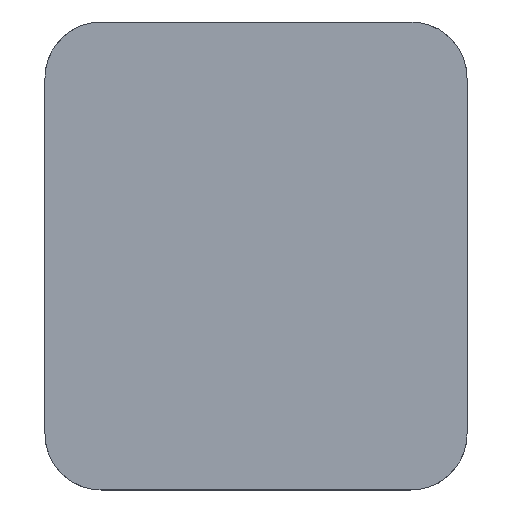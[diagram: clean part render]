
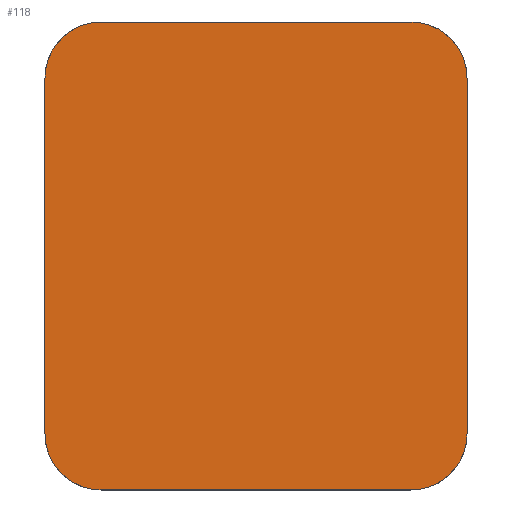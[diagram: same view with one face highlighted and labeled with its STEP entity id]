
A CAD part, top view. The second image highlights one B-rep face of the part: STEP entity #118.
In plain terms, the highlighted planar face has unit normal (0, 0, 1).
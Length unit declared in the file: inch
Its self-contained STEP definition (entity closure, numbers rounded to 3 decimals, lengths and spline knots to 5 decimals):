
#118=ADVANCED_FACE('',(#232),#233,.T.);
#232=FACE_OUTER_BOUND('',#361,.T.);
#233=PLANE('',#362);
#361=EDGE_LOOP('',(#591,#592,#593,#594,#595,#596,#597,#598));
#362=AXIS2_PLACEMENT_3D('',#599,#600,#601);
#591=ORIENTED_EDGE('',*,*,#786,.F.);
#592=ORIENTED_EDGE('',*,*,#720,.F.);
#593=ORIENTED_EDGE('',*,*,#766,.F.);
#594=ORIENTED_EDGE('',*,*,#782,.F.);
#595=ORIENTED_EDGE('',*,*,#787,.F.);
#596=ORIENTED_EDGE('',*,*,#788,.F.);
#597=ORIENTED_EDGE('',*,*,#789,.F.);
#598=ORIENTED_EDGE('',*,*,#790,.F.);
#599=CARTESIAN_POINT('',(0.49998,0.68723,0.45021));
#600=DIRECTION('',(0.0,0.0,1.0));
#601=DIRECTION('',(1.0,0.0,0.0));
#720=EDGE_CURVE('',#846,#847,#848,.T.);
#766=EDGE_CURVE('',#918,#846,#919,.T.);
#782=EDGE_CURVE('',#938,#918,#939,.T.);
#786=EDGE_CURVE('',#847,#944,#945,.T.);
#787=EDGE_CURVE('',#946,#938,#947,.T.);
#788=EDGE_CURVE('',#948,#946,#949,.T.);
#789=EDGE_CURVE('',#950,#948,#951,.T.);
#790=EDGE_CURVE('',#944,#950,#952,.T.);
#846=VERTEX_POINT('',#1022);
#847=VERTEX_POINT('',#1023);
#848=LINE('',#1024,#1025);
#918=VERTEX_POINT('',#1123);
#919=B_SPLINE_CURVE_WITH_KNOTS('',3,(#1124,#1125,#1126,#1127),.UNSPECIFIED.,.F.,.F.,(4,4),(-1.0,-0.0),.UNSPECIFIED.);
#938=VERTEX_POINT('',#1158);
#939=LINE('',#1159,#1160);
#944=VERTEX_POINT('',#1167);
#945=B_SPLINE_CURVE_WITH_KNOTS('',3,(#1168,#1169,#1170,#1171),.UNSPECIFIED.,.F.,.F.,(4,4),(-1.0,-0.0),.UNSPECIFIED.);
#946=VERTEX_POINT('',#1172);
#947=B_SPLINE_CURVE_WITH_KNOTS('',3,(#1173,#1174,#1175,#1176),.UNSPECIFIED.,.F.,.F.,(4,4),(-1.0,-0.0),.UNSPECIFIED.);
#948=VERTEX_POINT('',#1177);
#949=LINE('',#1178,#1179);
#950=VERTEX_POINT('',#1180);
#951=B_SPLINE_CURVE_WITH_KNOTS('',3,(#1181,#1182,#1183,#1184),.UNSPECIFIED.,.F.,.F.,(4,4),(-1.0,-0.0),.UNSPECIFIED.);
#952=LINE('',#1185,#1186);
#1022=CARTESIAN_POINT('',(-0.21877,0.08168,0.45021));
#1023=CARTESIAN_POINT('',(-0.21877,1.29279,0.45021));
#1024=CARTESIAN_POINT('',(-0.21877,1.29279,0.45021));
#1025=VECTOR('',#1252,1.0);
#1123=CARTESIAN_POINT('',(-0.02751,-0.10959,0.45021));
#1124=CARTESIAN_POINT('',(-0.02751,-0.10959,0.45021));
#1125=CARTESIAN_POINT('',(-0.13314,-0.10959,0.45021));
#1126=CARTESIAN_POINT('',(-0.21877,-0.02395,0.45021));
#1127=CARTESIAN_POINT('',(-0.21877,0.08168,0.45021));
#1158=CARTESIAN_POINT('',(1.02749,-0.10959,0.45021));
#1159=CARTESIAN_POINT('',(-0.02751,-0.10959,0.45021));
#1160=VECTOR('',#1308,1.0);
#1167=CARTESIAN_POINT('',(-0.02751,1.48405,0.45021));
#1168=CARTESIAN_POINT('',(-0.21877,1.29279,0.45021));
#1169=CARTESIAN_POINT('',(-0.21877,1.39841,0.45021));
#1170=CARTESIAN_POINT('',(-0.13314,1.48405,0.45021));
#1171=CARTESIAN_POINT('',(-0.02751,1.48405,0.45021));
#1172=CARTESIAN_POINT('',(1.21873,0.08168,0.45021));
#1173=CARTESIAN_POINT('',(1.21873,0.08168,0.45021));
#1174=CARTESIAN_POINT('',(1.21873,-0.02395,0.45021));
#1175=CARTESIAN_POINT('',(1.13312,-0.10959,0.45021));
#1176=CARTESIAN_POINT('',(1.02749,-0.10959,0.45021));
#1177=CARTESIAN_POINT('',(1.21873,1.29279,0.45021));
#1178=CARTESIAN_POINT('',(1.21873,0.08168,0.45021));
#1179=VECTOR('',#1311,1.0);
#1180=CARTESIAN_POINT('',(1.02747,1.48405,0.45021));
#1181=CARTESIAN_POINT('',(1.02747,1.48405,0.45021));
#1182=CARTESIAN_POINT('',(1.1331,1.48405,0.45021));
#1183=CARTESIAN_POINT('',(1.21873,1.39841,0.45021));
#1184=CARTESIAN_POINT('',(1.21873,1.29279,0.45021));
#1185=CARTESIAN_POINT('',(1.02747,1.48405,0.45021));
#1186=VECTOR('',#1312,1.0);
#1252=DIRECTION('',(0.0,1.0,0.0));
#1308=DIRECTION('',(-1.0,-0.0,-0.0));
#1311=DIRECTION('',(-0.0,-1.0,-0.0));
#1312=DIRECTION('',(1.0,0.0,0.0));
